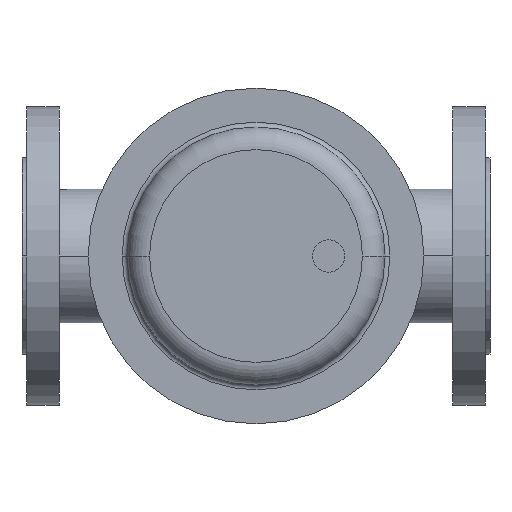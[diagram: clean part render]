
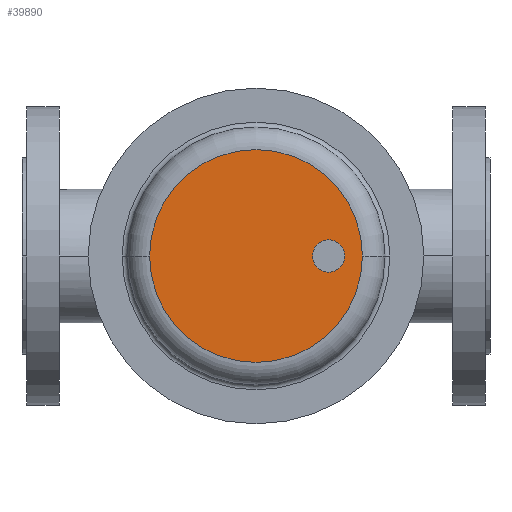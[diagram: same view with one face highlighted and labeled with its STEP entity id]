
A CAD part, front view. The second image highlights one B-rep face of the part: STEP entity #39890.
In plain terms, the highlighted planar face has unit normal (0, -1, 0).
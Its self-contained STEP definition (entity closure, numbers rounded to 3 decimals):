
#39350=CARTESIAN_POINT('',(79.07,-484.,0.));
#39360=VERTEX_POINT('',#39350);
#39390=CARTESIAN_POINT('',(145.,-484.,0.));
#39400=DIRECTION('',(0.,1.,0.));
#39410=DIRECTION('',(1.,0.,0.));
#39420=AXIS2_PLACEMENT_3D('',#39390,#39400,#39410);
#39430=CIRCLE('',#39420,65.93);
#39440=CARTESIAN_POINT('',(145.,-484.,-65.93));
#39450=VERTEX_POINT('',#39440);
#39460=EDGE_CURVE('',#39450,#39360,#39430,.T.);
#39480=CARTESIAN_POINT('',(210.93,-484.,0.));
#39490=VERTEX_POINT('',#39480);
#39500=EDGE_CURVE('',#39490,#39450,#39430,.T.);
#39630=CARTESIAN_POINT('',(177.965,-484.,0.));
#39640=DIRECTION('',(0.,-1.,0.));
#39650=DIRECTION('',(-1.,0.,0.));
#39660=AXIS2_PLACEMENT_3D('',#39630,#39640,#39650);
#39670=PLANE('',#39660);
#39680=CARTESIAN_POINT('',(190.,-484.,0.));
#39690=DIRECTION('',(0.,1.,0.));
#39700=DIRECTION('',(1.,0.,0.));
#39710=AXIS2_PLACEMENT_3D('',#39680,#39690,#39700);
#39720=CIRCLE('',#39710,10.);
#39730=CARTESIAN_POINT('',(200.,-484.,0.));
#39740=VERTEX_POINT('',#39730);
#39750=CARTESIAN_POINT('',(180.,-484.,0.));
#39760=VERTEX_POINT('',#39750);
#39770=EDGE_CURVE('',#39740,#39760,#39720,.T.);
#39780=ORIENTED_EDGE('',*,*,#39770,.T.);
#39790=EDGE_CURVE('',#39760,#39740,#39720,.T.);
#39800=ORIENTED_EDGE('',*,*,#39790,.T.);
#39810=EDGE_LOOP('',(#39800,#39780));
#39820=FACE_BOUND('',#39810,.T.);
#39830=ORIENTED_EDGE('',*,*,#39460,.F.);
#39840=EDGE_CURVE('',#39360,#39490,#39430,.T.);
#39850=ORIENTED_EDGE('',*,*,#39840,.F.);
#39860=ORIENTED_EDGE('',*,*,#39500,.F.);
#39870=EDGE_LOOP('',(#39860,#39850,#39830));
#39880=FACE_OUTER_BOUND('',#39870,.T.);
#39890=ADVANCED_FACE('',(#39820,#39880),#39670,.T.);
